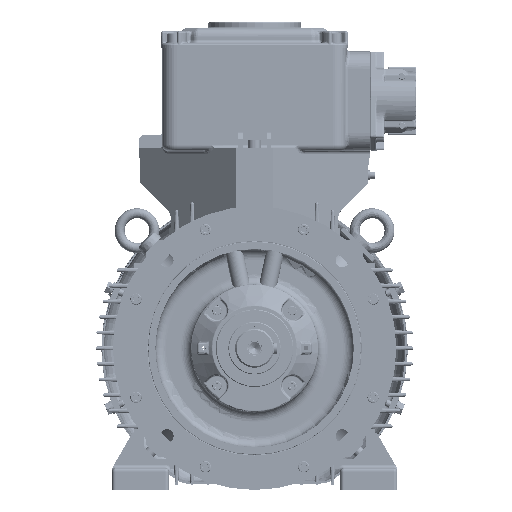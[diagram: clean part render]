
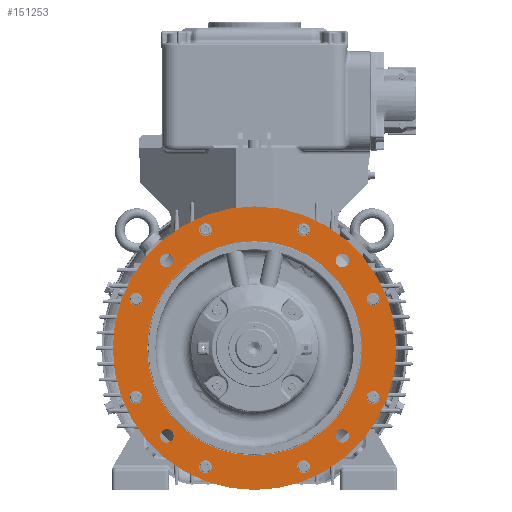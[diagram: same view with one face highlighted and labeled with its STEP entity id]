
A CAD part, left-side view. The second image highlights one B-rep face of the part: STEP entity #151253.
In plain terms, the highlighted planar face has unit normal (-1, 0, 0).
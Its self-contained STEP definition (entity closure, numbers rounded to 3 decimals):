
#27403=PLANE('',#161493);
#45451=ORIENTED_EDGE('',*,*,#78852,.F.);
#45452=ORIENTED_EDGE('',*,*,#78850,.F.);
#45453=ORIENTED_EDGE('',*,*,#78845,.T.);
#45454=ORIENTED_EDGE('',*,*,#78841,.T.);
#45455=ORIENTED_EDGE('',*,*,#78837,.T.);
#45456=ORIENTED_EDGE('',*,*,#78833,.T.);
#45457=ORIENTED_EDGE('',*,*,#78829,.T.);
#45458=ORIENTED_EDGE('',*,*,#78825,.T.);
#45459=ORIENTED_EDGE('',*,*,#78821,.T.);
#45460=ORIENTED_EDGE('',*,*,#78817,.T.);
#45461=ORIENTED_EDGE('',*,*,#78815,.F.);
#45462=ORIENTED_EDGE('',*,*,#78813,.F.);
#45463=ORIENTED_EDGE('',*,*,#78811,.F.);
#45464=ORIENTED_EDGE('',*,*,#78809,.F.);
#78809=EDGE_CURVE('',#96385,#96385,#107729,.T.);
#78811=EDGE_CURVE('',#96387,#96387,#107731,.T.);
#78813=EDGE_CURVE('',#96389,#96389,#107733,.T.);
#78815=EDGE_CURVE('',#96391,#96391,#107735,.T.);
#78817=EDGE_CURVE('',#96393,#96393,#107737,.T.);
#78821=EDGE_CURVE('',#96397,#96397,#107741,.T.);
#78825=EDGE_CURVE('',#96401,#96401,#107745,.T.);
#78829=EDGE_CURVE('',#96405,#96405,#107749,.T.);
#78833=EDGE_CURVE('',#96409,#96409,#107753,.T.);
#78837=EDGE_CURVE('',#96413,#96413,#107757,.T.);
#78841=EDGE_CURVE('',#96417,#96417,#107761,.T.);
#78845=EDGE_CURVE('',#96421,#96421,#107765,.T.);
#78850=EDGE_CURVE('',#96426,#96426,#107770,.T.);
#78852=EDGE_CURVE('',#96428,#96428,#107772,.T.);
#96385=VERTEX_POINT('',#235845);
#96387=VERTEX_POINT('',#235850);
#96389=VERTEX_POINT('',#235855);
#96391=VERTEX_POINT('',#235860);
#96393=VERTEX_POINT('',#235865);
#96397=VERTEX_POINT('',#235876);
#96401=VERTEX_POINT('',#235887);
#96405=VERTEX_POINT('',#235898);
#96409=VERTEX_POINT('',#235909);
#96413=VERTEX_POINT('',#235920);
#96417=VERTEX_POINT('',#235931);
#96421=VERTEX_POINT('',#235942);
#96426=VERTEX_POINT('',#235956);
#96428=VERTEX_POINT('',#235962);
#107729=CIRCLE('',#161420,9.5);
#107731=CIRCLE('',#161423,9.5);
#107733=CIRCLE('',#161426,9.5);
#107735=CIRCLE('',#161429,9.5);
#107737=CIRCLE('',#161432,9.);
#107741=CIRCLE('',#161439,9.);
#107745=CIRCLE('',#161446,9.);
#107749=CIRCLE('',#161453,9.);
#107753=CIRCLE('',#161460,9.);
#107757=CIRCLE('',#161467,9.);
#107761=CIRCLE('',#161474,9.);
#107765=CIRCLE('',#161481,9.);
#107770=CIRCLE('',#161490,151.4);
#107772=CIRCLE('',#161494,199.994);
#113640=EDGE_LOOP('',(#45451));
#113641=EDGE_LOOP('',(#45452));
#113642=EDGE_LOOP('',(#45453));
#113643=EDGE_LOOP('',(#45454));
#113644=EDGE_LOOP('',(#45455));
#113645=EDGE_LOOP('',(#45456));
#113646=EDGE_LOOP('',(#45457));
#113647=EDGE_LOOP('',(#45458));
#113648=EDGE_LOOP('',(#45459));
#113649=EDGE_LOOP('',(#45460));
#113650=EDGE_LOOP('',(#45461));
#113651=EDGE_LOOP('',(#45462));
#113652=EDGE_LOOP('',(#45463));
#113653=EDGE_LOOP('',(#45464));
#124104=FACE_BOUND('',#113640,.T.);
#124105=FACE_BOUND('',#113641,.T.);
#124106=FACE_BOUND('',#113642,.T.);
#124107=FACE_BOUND('',#113643,.T.);
#124108=FACE_BOUND('',#113644,.T.);
#124109=FACE_BOUND('',#113645,.T.);
#124110=FACE_BOUND('',#113646,.T.);
#124111=FACE_BOUND('',#113647,.T.);
#124112=FACE_BOUND('',#113648,.T.);
#124113=FACE_BOUND('',#113649,.T.);
#124114=FACE_BOUND('',#113650,.T.);
#124115=FACE_BOUND('',#113651,.T.);
#124116=FACE_BOUND('',#113652,.T.);
#124117=FACE_BOUND('',#113653,.T.);
#151253=ADVANCED_FACE('',(#124104,#124105,#124106,#124107,#124108,#124109,
#124110,#124111,#124112,#124113,#124114,#124115,#124116,#124117),#27403,
 .F.);
#161420=AXIS2_PLACEMENT_3D('',#235844,#181181,#181182);
#161423=AXIS2_PLACEMENT_3D('',#235849,#181187,#181188);
#161426=AXIS2_PLACEMENT_3D('',#235854,#181193,#181194);
#161429=AXIS2_PLACEMENT_3D('',#235859,#181199,#181200);
#161432=AXIS2_PLACEMENT_3D('',#235864,#181205,#181206);
#161439=AXIS2_PLACEMENT_3D('',#235875,#181219,#181220);
#161446=AXIS2_PLACEMENT_3D('',#235886,#181233,#181234);
#161453=AXIS2_PLACEMENT_3D('',#235897,#181247,#181248);
#161460=AXIS2_PLACEMENT_3D('',#235908,#181261,#181262);
#161467=AXIS2_PLACEMENT_3D('',#235919,#181275,#181276);
#161474=AXIS2_PLACEMENT_3D('',#235930,#181289,#181290);
#161481=AXIS2_PLACEMENT_3D('',#235941,#181303,#181304);
#161490=AXIS2_PLACEMENT_3D('',#235955,#181321,#181322);
#161493=AXIS2_PLACEMENT_3D('',#235960,#181327,#181328);
#161494=AXIS2_PLACEMENT_3D('',#235961,#181329,#181330);
#181181=DIRECTION('',(-1.,0.,0.));
#181182=DIRECTION('',(0.,-1.,0.));
#181187=DIRECTION('',(-1.,0.,0.));
#181188=DIRECTION('',(0.,-1.,0.));
#181193=DIRECTION('',(-1.,0.,0.));
#181194=DIRECTION('',(0.,-1.,0.));
#181199=DIRECTION('',(-1.,0.,0.));
#181200=DIRECTION('',(0.,-1.,0.));
#181205=DIRECTION('',(1.,0.,0.));
#181206=DIRECTION('',(0.,0.,-1.));
#181219=DIRECTION('',(1.,0.,0.));
#181220=DIRECTION('',(0.,0.,-1.));
#181233=DIRECTION('',(1.,0.,0.));
#181234=DIRECTION('',(0.,0.,-1.));
#181247=DIRECTION('',(1.,0.,0.));
#181248=DIRECTION('',(0.,0.,-1.));
#181261=DIRECTION('',(1.,0.,0.));
#181262=DIRECTION('',(0.,0.,-1.));
#181275=DIRECTION('',(1.,0.,0.));
#181276=DIRECTION('',(0.,0.,-1.));
#181289=DIRECTION('',(1.,0.,0.));
#181290=DIRECTION('',(0.,0.,-1.));
#181303=DIRECTION('',(1.,0.,0.));
#181304=DIRECTION('',(0.,0.,-1.));
#181321=DIRECTION('',(-1.,0.,0.));
#181322=DIRECTION('',(0.,0.,-1.));
#181327=DIRECTION('',(1.,0.,0.));
#181328=DIRECTION('',(0.,0.,1.));
#181329=DIRECTION('',(1.,0.,0.));
#181330=DIRECTION('',(0.,0.,1.));
#235844=CARTESIAN_POINT('',(-77.504,123.744,-123.744));
#235845=CARTESIAN_POINT('',(-77.504,114.244,-123.744));
#235849=CARTESIAN_POINT('',(-77.504,-123.761,-123.726));
#235850=CARTESIAN_POINT('',(-77.504,-133.261,-123.726));
#235854=CARTESIAN_POINT('',(-77.504,-123.744,123.744));
#235855=CARTESIAN_POINT('',(-77.504,-133.244,123.744));
#235859=CARTESIAN_POINT('',(-77.504,123.744,123.744));
#235860=CARTESIAN_POINT('',(-77.504,114.244,123.744));
#235864=CARTESIAN_POINT('',(-77.504,69.266,167.222));
#235865=CARTESIAN_POINT('',(-77.504,69.266,158.222));
#235875=CARTESIAN_POINT('',(-77.504,167.222,69.266));
#235876=CARTESIAN_POINT('',(-77.504,167.222,60.266));
#235886=CARTESIAN_POINT('',(-77.504,167.222,-69.266));
#235887=CARTESIAN_POINT('',(-77.504,167.222,-78.266));
#235897=CARTESIAN_POINT('',(-77.504,69.266,-167.222));
#235898=CARTESIAN_POINT('',(-77.504,69.266,-176.222));
#235908=CARTESIAN_POINT('',(-77.504,-69.266,-167.222));
#235909=CARTESIAN_POINT('',(-77.504,-69.266,-176.222));
#235919=CARTESIAN_POINT('',(-77.504,-167.222,-69.266));
#235920=CARTESIAN_POINT('',(-77.504,-167.222,-78.266));
#235930=CARTESIAN_POINT('',(-77.504,-167.222,69.266));
#235931=CARTESIAN_POINT('',(-77.504,-167.222,60.266));
#235941=CARTESIAN_POINT('',(-77.504,-69.266,167.222));
#235942=CARTESIAN_POINT('',(-77.504,-69.266,158.222));
#235955=CARTESIAN_POINT('',(-77.504,0.,0.));
#235956=CARTESIAN_POINT('',(-77.504,0.,-151.4));
#235960=CARTESIAN_POINT('',(-77.504,0.,-209.218));
#235961=CARTESIAN_POINT('',(-77.504,0.,0.));
#235962=CARTESIAN_POINT('',(-77.504,0.,199.994));
